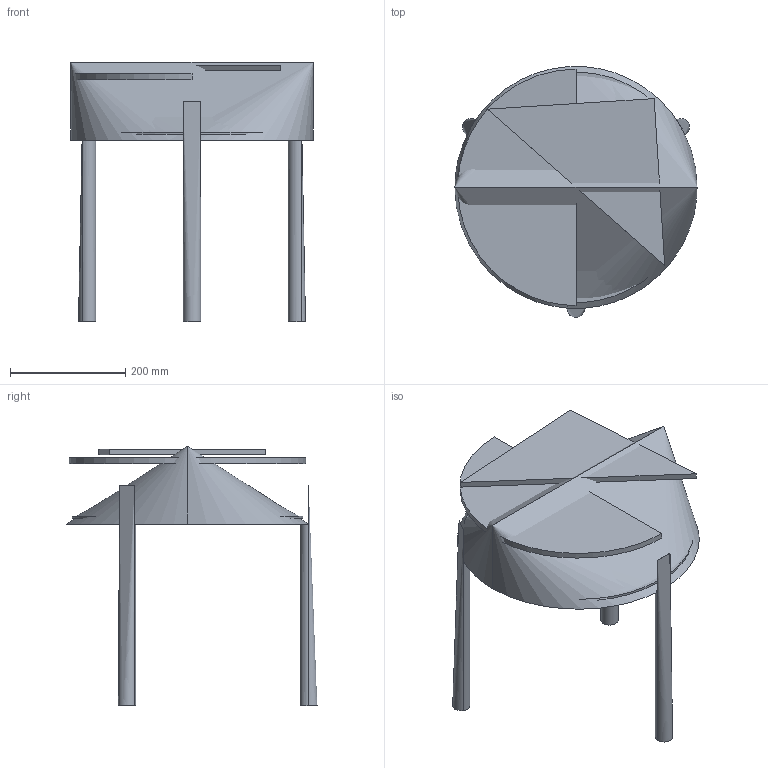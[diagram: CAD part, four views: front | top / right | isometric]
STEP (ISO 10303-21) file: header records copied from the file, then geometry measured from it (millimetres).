
FILE_DESCRIPTION(/* description */ (''),/* implementation_level */ '2;1');
FILE_NAME(/* name */ 'Arc coffee table small',/* time_stamp */ '2019-09-18T14:52:16+02:00',/* author */ (''),/* organization */ (''),/* preprocessor_version */ 'ST-DEVELOPER v15',/* originating_system */ '',/* authorisation */ '');
FILE_SCHEMA (('AUTOMOTIVE_DESIGN'));
Length unit declared in the file: millimetre
Products named in the file (1): Document
Bounding box: 420 x 434.59 x 450 mm (x, y, z)
Volume: 5523771.4 mm3; surface area: 1276991.4 mm2
Topology: 7 solids, 44 shells, 83 faces, 319 edges, 297 vertices
Faces by surface type: plane 47, bspline 36
Entity records: 4605 total; most frequent: CARTESIAN_POINT 2240, ORIENTED_EDGE 345, EDGE_CURVE 260, VERTEX_POINT 229, B_SPLINE_CURVE_WITH_KNOTS 221, COLOUR_RGB 103, PRESENTATION_STYLE_ASSIGNMENT 103, STYLED_ITEM 103
